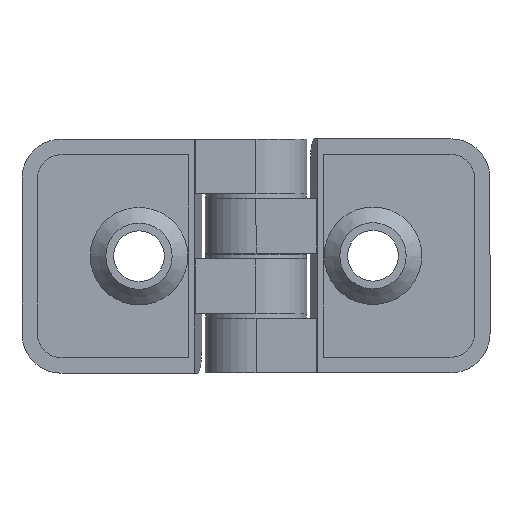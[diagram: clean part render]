
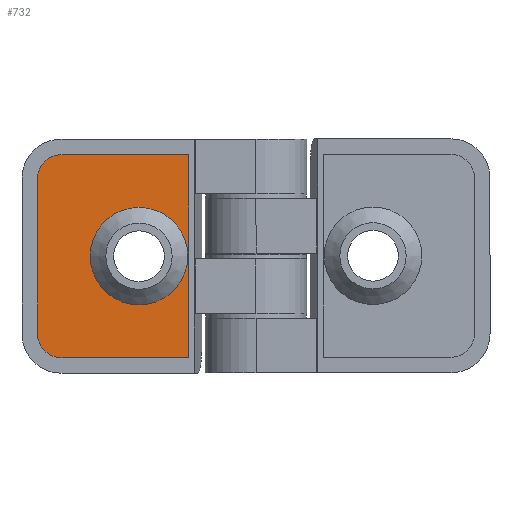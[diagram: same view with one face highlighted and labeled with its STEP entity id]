
A CAD part, front view. The second image highlights one B-rep face of the part: STEP entity #732.
In plain terms, the highlighted planar face has unit normal (0, -1, 0).
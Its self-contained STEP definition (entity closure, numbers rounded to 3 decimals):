
#70=LINE('',#1119,#127);
#74=LINE('',#1126,#131);
#78=LINE('',#1138,#135);
#81=LINE('',#1147,#138);
#127=VECTOR('',#880,26.);
#131=VECTOR('',#886,16.408);
#135=VECTOR('',#898,20.);
#138=VECTOR('',#909,16.408);
#187=PLANE('',#789);
#209=FACE_BOUND('',#284,.T.);
#235=FACE_OUTER_BOUND('',#283,.T.);
#283=EDGE_LOOP('',(#562,#563,#564,#565,#566,#567));
#284=EDGE_LOOP('',(#568));
#339=CIRCLE('',#775,6.25);
#343=CIRCLE('',#783,3.);
#345=CIRCLE('',#787,3.);
#374=VERTEX_POINT('',#1105);
#379=VERTEX_POINT('',#1116);
#380=VERTEX_POINT('',#1118);
#382=VERTEX_POINT('',#1124);
#384=VERTEX_POINT('',#1130);
#386=VERTEX_POINT('',#1136);
#388=VERTEX_POINT('',#1142);
#440=EDGE_CURVE('',#374,#374,#339,.T.);
#445=EDGE_CURVE('',#379,#380,#70,.T.);
#449=EDGE_CURVE('',#382,#379,#74,.T.);
#452=EDGE_CURVE('',#384,#382,#343,.T.);
#455=EDGE_CURVE('',#386,#384,#78,.T.);
#458=EDGE_CURVE('',#388,#386,#345,.T.);
#460=EDGE_CURVE('',#380,#388,#81,.T.);
#562=ORIENTED_EDGE('',*,*,#460,.F.);
#563=ORIENTED_EDGE('',*,*,#445,.F.);
#564=ORIENTED_EDGE('',*,*,#449,.F.);
#565=ORIENTED_EDGE('',*,*,#452,.F.);
#566=ORIENTED_EDGE('',*,*,#455,.F.);
#567=ORIENTED_EDGE('',*,*,#458,.F.);
#568=ORIENTED_EDGE('',*,*,#440,.F.);
#732=ADVANCED_FACE('',(#235,#209),#187,.F.);
#775=AXIS2_PLACEMENT_3D('',#1106,#868,#869);
#783=AXIS2_PLACEMENT_3D('',#1132,#892,#893);
#787=AXIS2_PLACEMENT_3D('',#1144,#904,#905);
#789=AXIS2_PLACEMENT_3D('',#1148,#910,#911);
#868=DIRECTION('center_axis',(0.,-1.,0.));
#869=DIRECTION('ref_axis',(-1.,0.,0.));
#880=DIRECTION('',(0.,0.,-1.));
#886=DIRECTION('',(1.,0.,0.));
#892=DIRECTION('center_axis',(0.,1.,0.));
#893=DIRECTION('ref_axis',(0.,0.,1.));
#898=DIRECTION('',(0.,0.,1.));
#904=DIRECTION('center_axis',(0.,1.,0.));
#905=DIRECTION('ref_axis',(-1.,0.,0.));
#909=DIRECTION('',(-1.,0.,0.));
#910=DIRECTION('center_axis',(0.,1.,0.));
#911=DIRECTION('ref_axis',(0.,0.,1.));
#1105=CARTESIAN_POINT('',(-0.95,2.,15.));
#1106=CARTESIAN_POINT('Origin',(-7.2,2.,15.));
#1116=CARTESIAN_POINT('',(-0.792,2.,28.));
#1118=CARTESIAN_POINT('',(-0.792,2.,2.));
#1119=CARTESIAN_POINT('',(-0.792,2.,2.));
#1124=CARTESIAN_POINT('',(-17.2,2.,28.));
#1126=CARTESIAN_POINT('',(-0.792,2.,28.));
#1130=CARTESIAN_POINT('',(-20.2,2.,25.));
#1132=CARTESIAN_POINT('Origin',(-17.2,2.,25.));
#1136=CARTESIAN_POINT('',(-20.2,2.,5.));
#1138=CARTESIAN_POINT('',(-20.2,2.,25.));
#1142=CARTESIAN_POINT('',(-17.2,2.,2.));
#1144=CARTESIAN_POINT('Origin',(-17.2,2.,5.));
#1147=CARTESIAN_POINT('',(-17.2,2.,2.));
#1148=CARTESIAN_POINT('Origin',(-9.954,2.,15.));
